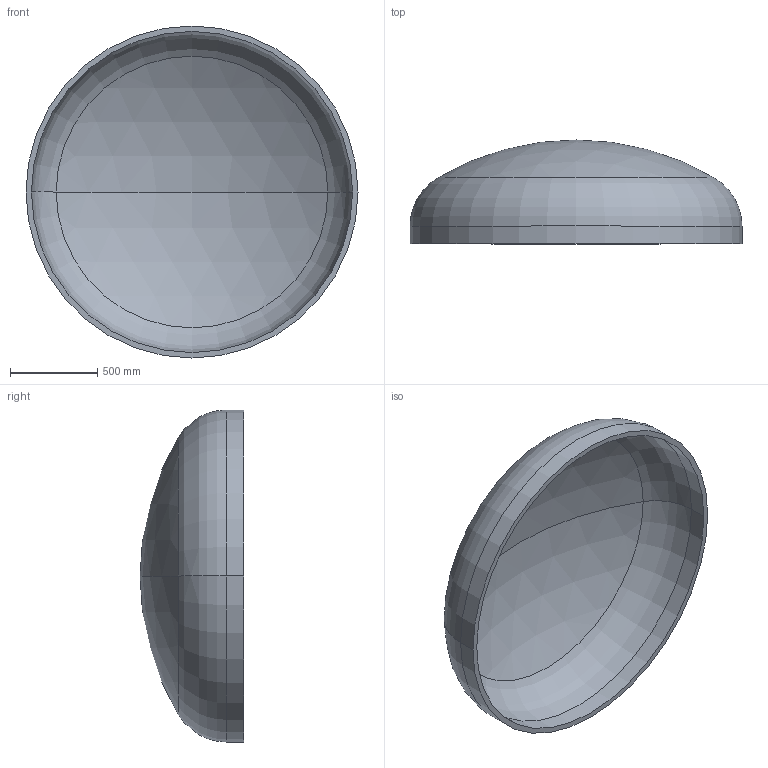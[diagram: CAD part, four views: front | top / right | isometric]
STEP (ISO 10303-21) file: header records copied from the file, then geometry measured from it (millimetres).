
FILE_DESCRIPTION (( 'STEP AP203' ), '1' );
FILE_NAME ('DIN 28013 Korbbogenform_-_Boden DIN 28013 - 1900 x 100 - I - s=31.step', '2016-07-01T13:04:30', ( '' ), ( '' ), 'SwSTEP 2.0', 'SolidWorks 2013', '' );
FILE_SCHEMA (( 'CONFIG_CONTROL_DESIGN' ));
Length unit declared in the file: millimetre
Products named in the file (1): DIN 28013 Korbbogenform_-_Boden DIN 28013 - 1900 x 100 - I - s=31
Bounding box: 1900 x 594 x 1900 mm (x, y, z)
Volume: 137131638.7 mm3; surface area: 9031233 mm2
Topology: 1 solids, 1 shells, 13 faces, 24 edges, 14 vertices
Faces by surface type: torus 4, cylinder 4, sphere 4, plane 1
Entity records: 407 total; most frequent: DIRECTION 72, CARTESIAN_POINT 52, ORIENTED_EDGE 48, AXIS2_PLACEMENT_3D 34, EDGE_CURVE 24, CIRCLE 20, VERTEX_POINT 14, EDGE_LOOP 14
